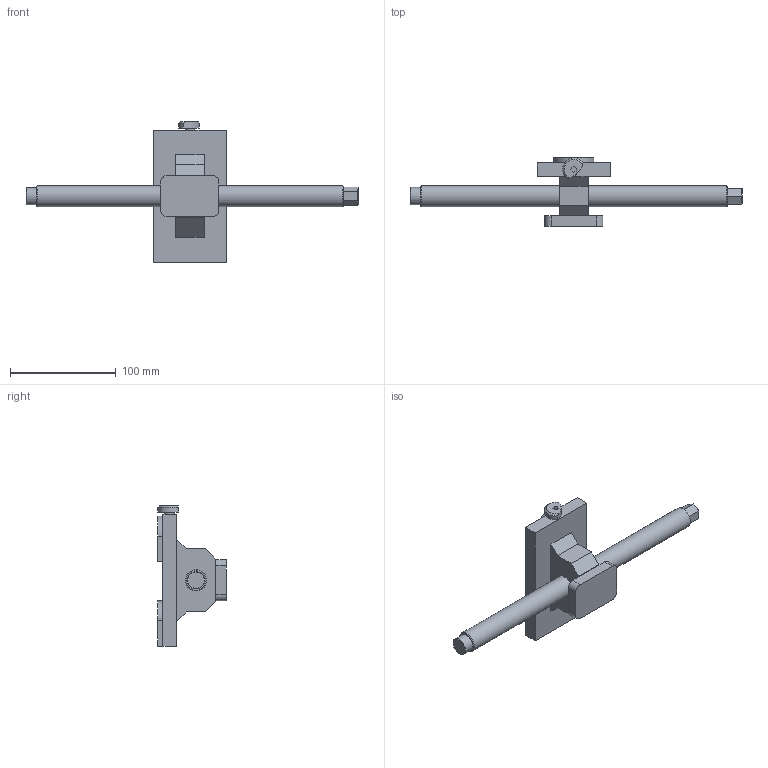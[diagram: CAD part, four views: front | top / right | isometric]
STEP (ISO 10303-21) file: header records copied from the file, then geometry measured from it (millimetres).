
FILE_DESCRIPTION (( 'STEP AP214' ), '1' );
FILE_NAME ('44305-TG125.STEP', '2020-03-27T13:24:22', ( '' ), ( '' ), 'SwSTEP 2.0', 'SolidWorks 2019', '' );
FILE_SCHEMA (( 'AUTOMOTIVE_DESIGN' ));
Length unit declared in the file: millimetre
Products named in the file (1): 44305-TG125
Bounding box: 314 x 65 x 133 mm (x, y, z)
Volume: 296198.5 mm3; surface area: 52279.4 mm2
Topology: 1 solids, 1 shells, 85 faces, 200 edges, 128 vertices
Faces by surface type: plane 69, cylinder 12, cone 4
Full cylindrical faces by diameter (mm): 9 x1, 16.5 x1, 20 x2
Entity records: 2775 total; most frequent: CARTESIAN_POINT 407, DIRECTION 388, ORIENTED_EDGE 380, EDGE_CURVE 190, VECTOR 160, LINE 160, VERTEX_POINT 125, AXIS2_PLACEMENT_3D 114
